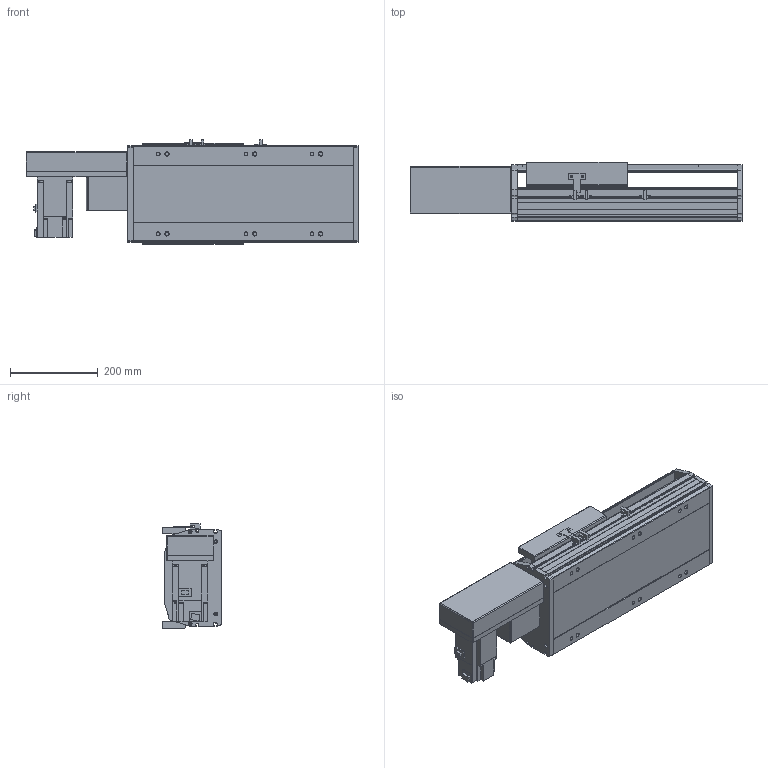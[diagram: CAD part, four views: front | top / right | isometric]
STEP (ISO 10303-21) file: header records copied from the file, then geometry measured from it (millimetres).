
FILE_DESCRIPTION(/* description */ ('STEP AP214'),/* implementation_level */ '2;1');
FILE_NAME(/* name */ 'PBS220-P40-S150-R-T75-C1-N(0)',/* time_stamp */ '2022-06-11T09:59:32+02:00',/* author */ ('License CC BY-ND 4.0'),/* organization */ ('CADENAS'),/* preprocessor_version */ 'ST-DEVELOPER v18.102',/* originating_system */ 'PARTsolutions',/* authorisation */ ' ');
FILE_SCHEMA (('AUTOMOTIVE_DESIGN {1 0 10303 214 3 1 1}'));
Length unit declared in the file: millimetre
Products named in the file (7): PBS220-P40-S150-R-T75-C1-N(0); PBS220_sensor; PBS220_plant; PBS220_sliser; T75-p1; PBS220T-R_motors; PBS220-S150()_body
Assembly tree (8 placements, depth 2):
  PBS220-P40-S150-R-T75-C1-N(0)
    PBS220_sensor  x3
    PBS220_plant
    PBS220_sliser
    T75-p1
    PBS220T-R_motors
    PBS220-S150()_body
Bounding box: 756 x 134 x 238.5 mm (x, y, z)
Volume: 10012145.5 mm3; surface area: 1125491.3 mm2
Topology: 8 solids, 8 shells, 854 faces, 2256 edges, 1468 vertices
Faces by surface type: plane 578, cylinder 246, cone 30
Full cylindrical faces by diameter (mm): 2.013 x4, 4.5 x14, 4.917 x4, 6 x7, 6.647 x8, 8 x10, 8.376 x6, 8.5 x6, 10 x6, 14 x6, 38 x2, 40 x1, 70 x1
Entity records: 24069 total; most frequent: DIRECTION 4185, CARTESIAN_POINT 4162, ORIENTED_EDGE 3926, EDGE_CURVE 1963, AXIS2_PLACEMENT_3D 1425, VERTEX_POINT 1336, LINE 1335, VECTOR 1335
